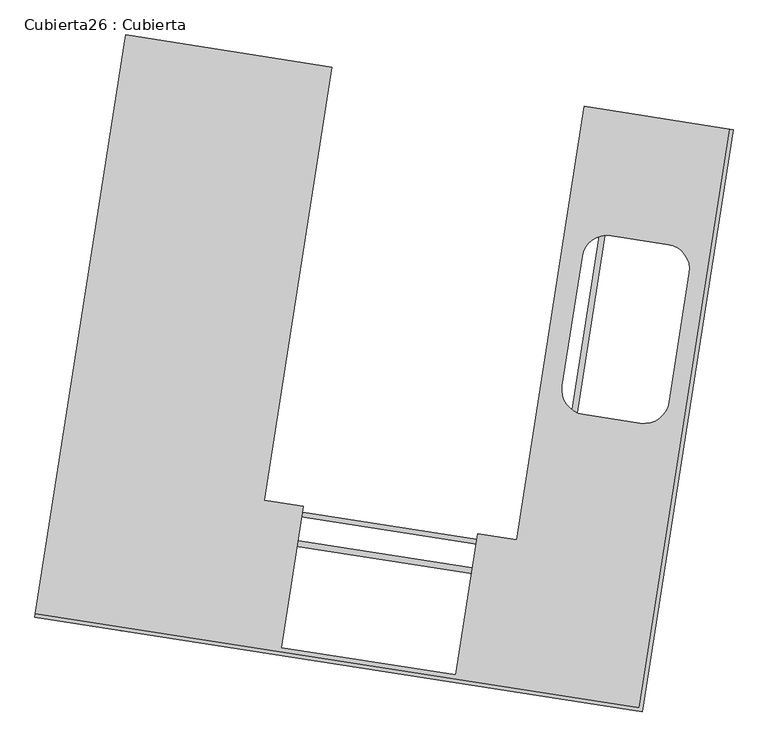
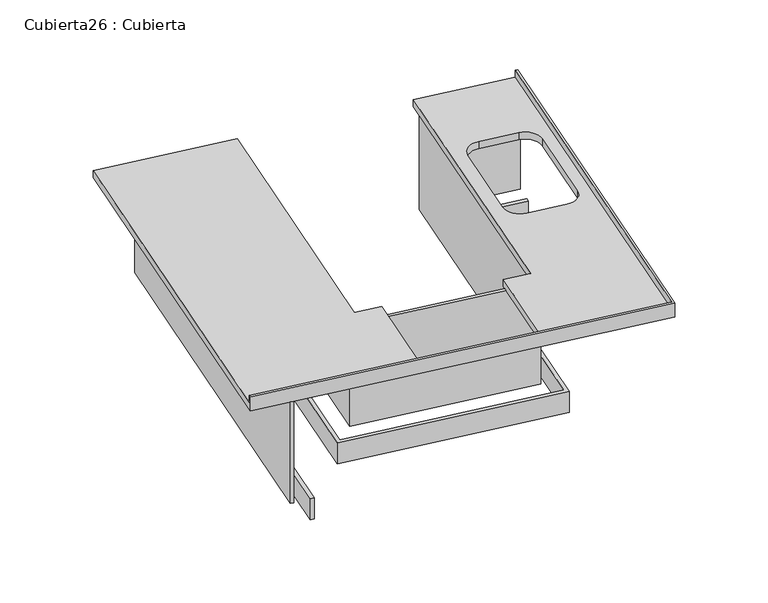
"""IFC4 building model written with IfcOpenShell, lengths in millimetres: furniture geometry, Cubierta26 : Cubierta."""

import ifcopenshell
import ifcopenshell.guid

model = None  # the IFC model being written
_history = None  # IfcOwnerHistory: only IFC2X3 demands one
_inside = {}  # id of a spatial element -> (the spatial element, [elements in it])
_under = {}  # id of a project, library or spatial element -> (it, [spatial elements below it])
_declared = {}  # id of a project -> (the project, [libraries it declares])
_typed = {}  # id of a type object -> (the type object, [elements of that type])
_made_of = {}  # id of a material, layer set ... -> (it, [elements and type objects made of it])


def new_model(schema):
    """Start an empty IFC model of exactly this schema.

    Asked for "IFC4X3", IfcOpenShell would pick the latest addendum, in which some entities
    have other attributes; the version numbers below select the first issue.
    IFC2X3 requires an IfcOwnerHistory on every rooted entity: one is made here for all.
    """
    global model, _history
    if schema == "IFC4X3":
        model = ifcopenshell.file(schema_version=(4, 3, 0, 0))
    else:
        model = ifcopenshell.file(schema=schema)
    _inside.clear()
    _under.clear()
    _declared.clear()
    _typed.clear()
    _made_of.clear()
    _history = None
    if model.schema == "IFC2X3":
        org = make("IfcOrganization", Name="unknown")
        user = make(
            "IfcPersonAndOrganization",
            ThePerson=make("IfcPerson", FamilyName="unknown"),
            TheOrganization=org,
        )
        app = make(
            "IfcApplication",
            ApplicationDeveloper=org,
            Version="unknown",
            ApplicationFullName="unknown",
            ApplicationIdentifier="unknown",
        )
        _history = make(
            "IfcOwnerHistory",
            OwningUser=user,
            OwningApplication=app,
            ChangeAction="ADDED",
            CreationDate=0,
        )
    return model


def make(cls, **values):
    """One entity of the class cls with the attributes given. An attribute that is None is left unset."""
    return model.create_entity(
        cls, **{name: value for name, value in values.items() if value is not None}
    )


def rooted(cls, **values):
    """An entity with a GlobalId (a new one), such as an element, a storey or a relation."""
    return make(cls, GlobalId=ifcopenshell.guid.new(), OwnerHistory=_history, **values)


def si_unit(unit_type, name, prefix=None):
    """IfcSIUnit, for example si_unit("LENGTHUNIT", "METRE", prefix="MILLI")."""
    return make("IfcSIUnit", UnitType=unit_type, Prefix=prefix, Name=name)


def assignment(units):
    """IfcUnitAssignment: the units of a project."""
    return None if units is None else make("IfcUnitAssignment", Units=units)


def point(xyz):
    """IfcCartesianPoint."""
    return None if xyz is None else make("IfcCartesianPoint", Coordinates=xyz)


def direction(xyz):
    """IfcDirection."""
    return None if xyz is None else make("IfcDirection", DirectionRatios=xyz)


def frame(location, z_axis=None, x_axis=None):
    """IfcAxis2Placement3D, a coordinate frame: its origin and axes. An axis left out is left unset."""
    return make(
        "IfcAxis2Placement3D",
        Location=point(location),
        Axis=direction(z_axis),
        RefDirection=direction(x_axis),
    )


def origin():
    """The frame at (0, 0, 0) with its axes left unset."""
    return frame((0.0, 0.0, 0.0))


def place(relative_to, where):
    """IfcLocalPlacement: puts the frame where relative to a parent placement (None: the world)."""
    return make(
        "IfcLocalPlacement", PlacementRelTo=relative_to, RelativePlacement=where
    )


def context(
    kind, dimensions, precision=None, world=None, true_north=None, identifier=None
):
    """IfcGeometricRepresentationContext, for example the 3D "Model" context."""
    return make(
        "IfcGeometricRepresentationContext",
        ContextIdentifier=identifier,
        ContextType=kind,
        CoordinateSpaceDimension=dimensions,
        Precision=precision,
        WorldCoordinateSystem=world,
        TrueNorth=true_north,
    )


def project(units=None, contexts=None):
    """IfcProject with its units and contexts."""
    return rooted(
        "IfcProject",
        Name="project",
        RepresentationContexts=contexts,
        UnitsInContext=assignment(units),
    )


def spatial(cls, under=None, at=None, **own):
    """A site, building, storey or space (cls), placed at a placement, below another one or the project."""
    s = rooted(cls, ObjectPlacement=at, **own)
    if under is not None:
        _under.setdefault(under.id(), (under, []))[1].append(s)
    return s


def polyline(points):
    """IfcPolyline through the points."""
    return make("IfcPolyline", Points=[point(p) for p in points])


def circle_curve(where, radius):
    """IfcCircle in the frame where."""
    return make("IfcCircle", Position=where, Radius=radius)


def outline(outer, holes=None, kind="AREA"):
    """IfcArbitraryClosedProfileDef: a profile drawn as a closed curve; with holes, ...WithVoids."""
    if holes is None:
        return make("IfcArbitraryClosedProfileDef", ProfileType=kind, OuterCurve=outer)
    return make(
        "IfcArbitraryProfileDefWithVoids",
        ProfileType=kind,
        OuterCurve=outer,
        InnerCurves=holes,
    )


def extrude(swept, where, along, depth):
    """IfcExtrudedAreaSolid: the profile swept, set in the frame where, extruded along a direction by depth."""
    return make(
        "IfcExtrudedAreaSolid",
        SweptArea=swept,
        Position=where,
        ExtrudedDirection=direction(along),
        Depth=depth,
    )


def shape(context_of_items, identifier, shape_type, items):
    """IfcShapeRepresentation: the items that make up one representation, for example the "Body"."""
    return make(
        "IfcShapeRepresentation",
        ContextOfItems=context_of_items,
        RepresentationIdentifier=identifier,
        RepresentationType=shape_type,
        Items=items,
    )


def source(mapping_origin, context_of_items, identifier, shape_type, items):
    """IfcRepresentationMap: a shape defined once, which mapped items show again and again."""
    return make(
        "IfcRepresentationMap",
        MappingOrigin=mapping_origin,
        MappedRepresentation=shape(context_of_items, identifier, shape_type, items),
    )


def transform(
    local_origin,
    x_axis=None,
    y_axis=None,
    z_axis=None,
    scale=None,
    scale2=None,
    scale3=None,
    uniform=True,
):
    """IfcCartesianTransformationOperator3D, or its non-uniform kind. x_axis, y_axis, z_axis: its Axis1, 2, 3."""
    if uniform:
        return make(
            "IfcCartesianTransformationOperator3D",
            Axis1=direction(x_axis),
            Axis2=direction(y_axis),
            LocalOrigin=point(local_origin),
            Scale=scale,
            Axis3=direction(z_axis),
        )
    return make(
        "IfcCartesianTransformationOperator3DnonUniform",
        Axis1=direction(x_axis),
        Axis2=direction(y_axis),
        LocalOrigin=point(local_origin),
        Scale=scale,
        Axis3=direction(z_axis),
        Scale2=scale2,
        Scale3=scale3,
    )


def mapped(mapping_source, mapping_target):
    """IfcMappedItem: shows the shape of a source again, moved by a transform."""
    return make(
        "IfcMappedItem", MappingSource=mapping_source, MappingTarget=mapping_target
    )


def made_of(thing, what):
    """Note that an element or type object is made of a material, layer set ...; save() writes the relation."""
    if what is not None:
        _made_of.setdefault(what.id(), (what, []))[1].append(thing)
    return thing


def element(
    cls,
    number,
    at=None,
    inside=None,
    cuts=None,
    type_object=None,
    material=None,
    context=None,
    identifier="Body",
    shape_type=None,
    held_by="IfcProductDefinitionShape",
    body=None,
    shapes=None,
    **own,
):
    """One element of the class cls, such as IfcWall. Its Tag is "e" and its number.

    at: its placement. inside: the storey or other place that contains it. cuts: it is an
    opening in that element (IfcRelVoidsElement). A single representation is given by context,
    identifier, shape_type and body (its items); several are given by shapes. held_by: the class
    of the entity that holds the representations. save() writes the other relations.
    """
    e = rooted(cls, Tag="e%d" % number, ObjectPlacement=at, **own)
    if body is not None:
        shapes = [shape(context, identifier, shape_type, body)]
    if shapes is not None:
        e.Representation = make(held_by, Representations=shapes)
    if inside is not None:
        _inside.setdefault(inside.id(), (inside, []))[1].append(e)
    if cuts is not None:
        rooted(
            "IfcRelVoidsElement", RelatingBuildingElement=cuts, RelatedOpeningElement=e
        )
    if type_object is not None:
        _typed.setdefault(type_object.id(), (type_object, []))[1].append(e)
    return made_of(e, material)


def aggregate(whole, parts):
    """IfcRelAggregates: a whole, such as a stair, and the parts it consists of."""
    return rooted("IfcRelAggregates", RelatingObject=whole, RelatedObjects=parts)


def save(model, path):
    """Write the relations noted so far, then the file.

    IfcRelAggregates (storeys below a building ...), IfcRelContainedInSpatialStructure (elements
    in a storey), IfcRelDefinesByType, IfcRelAssociatesMaterial and IfcRelDeclares: one each for
    every whole, place, type object, material and project.
    """
    for whole, parts in _under.values():
        aggregate(whole, parts)
    for where, things in _inside.values():
        rooted(
            "IfcRelContainedInSpatialStructure",
            RelatedElements=things,
            RelatingStructure=where,
        )
    for kind, things in _typed.values():
        rooted("IfcRelDefinesByType", RelatedObjects=things, RelatingType=kind)
    for what, things in _made_of.values():
        rooted("IfcRelAssociatesMaterial", RelatedObjects=things, RelatingMaterial=what)
    for by, libraries in _declared.values():
        rooted("IfcRelDeclares", RelatingContext=by, RelatedDefinitions=libraries)
    model.write(path)


def plane_surface(at):
    """IfcPlane: the flat surface through the origin of the frame at, square to its z axis."""
    return make("IfcPlane", Position=at)


def revolved_surface(curve, axis_point, axis_direction):
    """IfcSurfaceOfRevolution: the curve turned about the line through axis_point along axis_direction."""
    return make(
        "IfcSurfaceOfRevolution",
        SweptCurve=make("IfcArbitraryOpenProfileDef", ProfileType="CURVE", Curve=curve),
        AxisPosition=make("IfcAxis1Placement", Location=point(axis_point), Axis=direction(axis_direction)),
    )


def advanced_brep(points, edges, surfaces, faces):
    """IfcAdvancedBrep: a solid bounded by faces that lie on surfaces and meet in shared edges.

    An edge is (start, end): straight between two places in points (the first is 0);
    or (start, end, curve); or (start, end, curve, False) where it runs against its curve.
    A face is (place in surfaces, loops), or (place, loops, False) where it looks against
    its surface's normal. A loop lists edges by number (the first is 1), with a minus sign
    where the edge is run from its end to its start. The first loop is the outer one.
    """
    corners = [point(p) for p in points]
    vertices = [make("IfcVertexPoint", VertexGeometry=c) for c in corners]
    made = []
    for start, end, *more in edges:
        made.append(
            make(
                "IfcEdgeCurve",
                EdgeStart=vertices[start],
                EdgeEnd=vertices[end],
                EdgeGeometry=more[0] if more else make("IfcPolyline", Points=[corners[start], corners[end]]),
                SameSense=more[1] if len(more) > 1 else True,
            )
        )
    hull = []
    for where, loops, *sense in faces:
        bounds = []
        for j, loop in enumerate(loops):
            ring = [make("IfcOrientedEdge", EdgeElement=made[abs(k) - 1], Orientation=k > 0) for k in loop]
            bounds.append(
                make(
                    "IfcFaceOuterBound" if j == 0 else "IfcFaceBound",
                    Bound=make("IfcEdgeLoop", EdgeList=ring),
                    Orientation=True,
                )
            )
        hull.append(make("IfcAdvancedFace", Bounds=bounds, FaceSurface=surfaces[where], SameSense=sense[0] if sense else True))
    return make("IfcAdvancedBrep", Outer=make("IfcClosedShell", CfsFaces=hull))


def cubierta26_cubierta_3ae4725f(model_context):
    return source(origin(), model_context, "Body", "SolidModel", [
        extrude(outline(polyline([(-29856.6011541, -60022.0322017), (-29362.5665007, -60099.0371413), (-29366.4167477, -60123.738874), (-29835.7496684, -60050.5841814), (-30126.8283359, -61918.035146), (-31559.5288325, -61694.7208211), (-31268.4501647, -59827.2698564), (-31589.5726859, -59777.2166462), (-31953.806046, -62114.0005321), (-31978.5077787, -62110.1502852), (-31610.4241716, -59748.6646665), (-31239.898185, -59806.4183706), (-31530.9768528, -61673.8693353), (-30147.6798216, -61889.4831664), (-29856.6011541, -60022.0322017)])), frame((0.0, 0.0, 12800.0), z_axis=(0.0, 0.0, 1.0), x_axis=(1.0, 0.0, 0.0)), (0.0, 0.0, 1.0), 150.0),
        extrude(outline(polyline([(-31097.1382866, -59702.160942), (-31388.2169544, -61569.6119068), (-30251.9372502, -61746.723268), (-29960.8585827, -59879.2723032), (-29343.3152657, -59975.5284777), (-29346.3954633, -59995.2898639), (-29944.1773941, -59902.113887), (-30235.2560616, -61769.5648517), (-31411.0585381, -61586.2930953), (-31119.9798704, -59718.8421306), (-31698.0004116, -59628.7463518), (-32082.255056, -62093.9792478), (-32102.0164422, -62090.8990502), (-31714.6816001, -59605.9047681), (-31097.1382866, -59702.160942)])), frame((0.0, 0.0, 12950.0), z_axis=(0.0, 0.0, 1.0), x_axis=(1.0, 0.0, 0.0)), (0.0, 0.0, 1.0), 720.0),
        advanced_brep(
        [(-29981.7100684, -59850.7203237, 13720.0), (-30272.7887361, -61718.1712883, 13720.0), (-30440.7605183, -61691.9896088, 13720.0), (-30535.7437932, -62301.3664816, 13720.0), (-31286.6764672, -62184.3189733, 13720.0), (-31191.6931923, -61574.9421005, 13720.0), (-31359.6649747, -61548.7604211, 13720.0), (-31068.586307, -59681.3094564, 13720.0), (-31957.84868, -59542.7005656, 13720.0), (-32346.723621, -62037.5755408, 13720.0), (-29743.1609993, -62443.391572, 13720.0), (-29354.2860584, -59948.516597, 13720.0), (-29988.3859433, -60497.4075856, 13720.0), (-29866.1834703, -60408.1632267, 13720.0), (-29619.1661434, -60446.6656966, 13720.0), (-29529.9217845, -60568.8681696, 13720.0), (-29616.9373663, -61127.1273285, 13720.0), (-29739.1398394, -61216.3716874, 13720.0), (-29986.1571663, -61177.8692175, 13720.0), (-30075.4015252, -61055.6667445, 13720.0), (-32349.0337692, -62052.3965805, 13670.0), (-31957.84868, -59542.7005656, 13670.0), (-31068.586307, -59681.3094564, 13670.0), (-31359.6649747, -61548.7604211, 13670.0), (-31191.6931923, -61574.9421005, 13670.0), (-31286.6764672, -62184.3189733, 13670.0), (-30535.7437932, -62301.3664816, 13670.0), (-30440.7605183, -61691.9896088, 13670.0), (-30272.7887361, -61718.1712883, 13670.0), (-29981.7100684, -59850.7203237, 13670.0), (-29339.4650188, -59950.8267451, 13670.0), (-29730.6501079, -62460.5227599, 13670.0), (-29988.3859433, -60497.4075856, 13670.0), (-30075.4015252, -61055.6667445, 13670.0), (-29986.1571663, -61177.8692175, 13670.0), (-29739.1398394, -61216.3716874, 13670.0), (-29616.9373663, -61127.1273285, 13670.0), (-29529.9217845, -60568.8681696, 13670.0), (-29619.1661434, -60446.6656966, 13670.0), (-29866.1834703, -60408.1632267, 13670.0), (-32349.0337692, -62052.3965804, 13770.0), (-32346.723621, -62037.5755408, 13770.0), (-29730.6501079, -62460.5227598, 13770.0), (-29339.4650188, -59950.8267451, 13770.0), (-29354.2860584, -59948.516597, 13770.0), (-29743.1609993, -62443.391572, 13770.0)],
        [
            (0, 1),
            (1, 2),
            (2, 3),
            (3, 4),
            (4, 5),
            (5, 6),
            (6, 7),
            (7, 8),
            (8, 9),
            (9, 10),
            (10, 11),
            (11, 0),
            (12, 13, circle_curve(frame((-29882.6625274, -60513.8866427, 13720.0), z_axis=(0.0, 0.0, -1.0), x_axis=(0.15400987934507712, 0.9880693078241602, 0.0)), 107.0)),
            (13, 14),
            (14, 15, circle_curve(frame((-29635.6452005, -60552.3891125, 13720.0), z_axis=(0.0, 0.0, -1.0), x_axis=(0.15400987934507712, 0.9880693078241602, 0.0)), 107.0)),
            (15, 16),
            (16, 17, circle_curve(frame((-29722.6607823, -61110.6482714, 13720.0), z_axis=(0.0, 0.0, -1.0), x_axis=(0.15400987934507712, 0.9880693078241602, 0.0)), 107.0)),
            (17, 18),
            (18, 19, circle_curve(frame((-29969.6781092, -61072.1458016, 13720.0), z_axis=(0.0, 0.0, -1.0), x_axis=(0.15400987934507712, 0.9880693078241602, 0.0)), 107.0)),
            (19, 12),
            (20, 21),
            (21, 22),
            (22, 23),
            (23, 24),
            (24, 25),
            (25, 26),
            (26, 27),
            (27, 28),
            (28, 29),
            (29, 30),
            (30, 31),
            (31, 20),
            (32, 33),
            (33, 34, circle_curve(frame((-29969.6781092, -61072.1458016, 13670.0), z_axis=(0.0, 0.0, 1.0), x_axis=(0.15400987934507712, 0.9880693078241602, 0.0)), 107.0)),
            (34, 35),
            (35, 36, circle_curve(frame((-29722.6607823, -61110.6482714, 13670.0), z_axis=(0.0, 0.0, 1.0), x_axis=(0.15400987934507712, 0.9880693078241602, 0.0)), 107.0)),
            (36, 37),
            (37, 38, circle_curve(frame((-29635.6452005, -60552.3891125, 13670.0), z_axis=(0.0, 0.0, 1.0), x_axis=(0.15400987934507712, 0.9880693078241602, 0.0)), 107.0)),
            (38, 39),
            (39, 32, circle_curve(frame((-29882.6625274, -60513.8866427, 13670.0), z_axis=(0.0, 0.0, 1.0), x_axis=(0.15400987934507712, 0.9880693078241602, 0.0)), 107.0)),
            (40, 41),
            (41, 9),
            (8, 21),
            (20, 40),
            (40, 42),
            (42, 43),
            (43, 44),
            (44, 45),
            (45, 41),
            (45, 10),
            (31, 42),
            (43, 30),
            (29, 0),
            (11, 44),
            (5, 24),
            (23, 6),
            (22, 7),
            (1, 28),
            (27, 2),
            (26, 3),
            (25, 4),
            (12, 32),
            (39, 13),
            (38, 14),
            (37, 15),
            (36, 16),
            (35, 17),
            (34, 18),
            (33, 19),
        ],
        [
            plane_surface(frame((-30091.1403123, -62404.3333282, 13720.0), z_axis=(0.0, 0.0, 1.0000000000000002), x_axis=(0.9880693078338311, -0.15400987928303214, 0.0))),
            plane_surface(frame((-30091.1403123, -62404.3333282, 13670.0), z_axis=(0.0, 0.0, -1.0000000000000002), x_axis=(-0.9880693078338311, 0.15400987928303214, 0.0))),
            plane_surface(frame((-32349.0337692, -62052.3965804, 12820.0), z_axis=(-0.9880693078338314, 0.15400987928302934, 0.0), x_axis=(0.0, 0.0, 1.0))),
            plane_surface(frame((-32349.0337692, -62052.3965804, 13770.0), z_axis=(0.0, 0.0, 1.0), x_axis=(0.9880693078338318, -0.15400987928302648, 0.0))),
            plane_surface(frame((-32346.723621, -62037.5755408, 13770.0), z_axis=(0.1540098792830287, 0.9880693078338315, 0.0), x_axis=(0.9880693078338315, -0.1540098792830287, 0.0))),
            plane_surface(frame((-32349.0337692, -62052.3965804, 13720.0), z_axis=(-0.15400987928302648, -0.9880693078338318, 0.0), x_axis=(0.9880693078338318, -0.15400987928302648, 0.0))),
            plane_surface(frame((-29339.4650188, -59950.8267451, 12820.0), z_axis=(0.15400987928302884, 0.9880693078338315, 0.0), x_axis=(0.0, 0.0, 1.0))),
            plane_surface(frame((-31191.6931923, -61574.9421005, 13720.0), z_axis=(0.1540098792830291, 0.9880693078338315, 0.0), x_axis=(0.0, 0.0, -1.0))),
            plane_surface(frame((-31359.6649747, -61548.7604211, 13720.0), z_axis=(0.9880693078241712, -0.15400987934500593, 0.0), x_axis=(0.0, 0.0, -1.0))),
            plane_surface(frame((-31068.586307, -59681.3094564, 13720.0), z_axis=(0.15400987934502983, 0.9880693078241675, 0.0), x_axis=(0.0, 0.0, -1.0))),
            plane_surface(frame((-30272.7887361, -61718.1712883, 13720.0), z_axis=(0.15400987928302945, 0.9880693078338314, 0.0), x_axis=(0.0, 0.0, -1.0))),
            plane_surface(frame((-30440.7605183, -61691.9896088, 13720.0), z_axis=(-0.9880693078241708, 0.1540098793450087, 0.0), x_axis=(0.0, 0.0, -1.0))),
            plane_surface(frame((-30535.7437932, -62301.3664816, 13720.0), z_axis=(0.1540098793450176, 0.9880693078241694, 0.0), x_axis=(0.0, 0.0, -1.0))),
            plane_surface(frame((-31286.6764672, -62184.3189733, 13720.0), z_axis=(0.9880693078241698, -0.15400987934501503, 0.0), x_axis=(0.0, 0.0, -1.0))),
            plane_surface(frame((-29981.7100684, -59850.7203237, 13720.0), z_axis=(-0.9880693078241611, 0.1540098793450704, 0.0), x_axis=(0.0, 0.0, -1.0))),
            revolved_surface(polyline([(-29866.183470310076, -60408.163226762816, 13670.0), (-29866.183470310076, -60408.163226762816, 13720.0)]), (-29882.6625274, -60513.8866427, 12820.0), (0.0, 0.0, -1.0000000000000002)),
            plane_surface(frame((-29866.1834703, -60408.1632267, 13720.0), z_axis=(-0.15400987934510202, -0.9880693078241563, 0.0), x_axis=(0.0, 0.0, -1.0))),
            revolved_surface(polyline([(-29619.166143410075, -60446.66569656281, 13670.0), (-29619.166143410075, -60446.66569656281, 13720.0)]), (-29635.6452005, -60552.3891125, 12820.0), (0.0, 0.0, -1.0000000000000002)),
            plane_surface(frame((-29529.9217845, -60568.8681696, 13720.0), z_axis=(-0.9880693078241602, 0.15400987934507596, 0.0), x_axis=(0.0, 0.0, -1.0))),
            revolved_surface(polyline([(-29706.181725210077, -61004.924855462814, 13670.0), (-29706.181725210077, -61004.924855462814, 13720.0)]), (-29722.6607823, -61110.6482714, 12820.0), (0.0, 0.0, -1.0000000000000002)),
            plane_surface(frame((-29739.1398394, -61216.3716874, 13720.0), z_axis=(0.15400987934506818, 0.9880693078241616, 0.0), x_axis=(0.0, 0.0, -1.0))),
            revolved_surface(polyline([(-29953.199052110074, -60966.422385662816, 13670.0), (-29953.199052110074, -60966.422385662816, 13720.0)]), (-29969.6781092, -61072.1458016, 12820.0), (0.0, 0.0, -1.0000000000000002)),
            plane_surface(frame((-30075.4015252, -61055.6667445, 13720.0), z_axis=(0.9880693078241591, -0.15400987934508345, 0.0), x_axis=(0.0, 0.0, -1.0))),
            plane_surface(frame((-29743.1609993, -62443.391572, 13770.0), z_axis=(-0.9880693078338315, 0.15400987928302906, 0.0), x_axis=(0.15400987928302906, 0.9880693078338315, 0.0))),
            plane_surface(frame((-29730.6501079, -62460.5227598, 13720.0), z_axis=(0.9880693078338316, -0.1540098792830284, 0.0), x_axis=(0.1540098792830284, 0.9880693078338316, 0.0))),
        ],
        [
            (0, [[1, 2, 3, 4, 5, 6, 7, 8, 9, 10, 11, 12], [13, 14, 15, 16, 17, 18, 19, 20]]),
            (1, [[21, 22, 23, 24, 25, 26, 27, 28, 29, 30, 31, 32], [33, 34, 35, 36, 37, 38, 39, 40]]),
            (2, [[41, 42, -9, 43, -21, 44]]),
            (3, [[-41, 45, 46, 47, 48, 49]]),
            (4, [[-42, -49, 50, -10]]),
            (5, [[-44, -32, 51, -45]]),
            (6, [[-47, 52, -30, 53, -12, 54]]),
            (7, [[-6, 55, -24, 56]]),
            (8, [[-7, -56, -23, 57]]),
            (9, [[-8, -57, -22, -43]]),
            (10, [[-2, 58, -28, 59]]),
            (11, [[-3, -59, -27, 60]]),
            (12, [[-4, -60, -26, 61]]),
            (13, [[-5, -61, -25, -55]]),
            (14, [[-1, -53, -29, -58]]),
            (15, [[-13, 62, -40, 63]]),
            (16, [[-14, -63, -39, 64]]),
            (17, [[-15, -64, -38, 65]]),
            (18, [[-16, -65, -37, 66]]),
            (19, [[-17, -66, -36, 67]]),
            (20, [[-18, -67, -35, 68]]),
            (21, [[-19, -68, -34, 69]]),
            (22, [[-20, -69, -33, -62]]),
            (23, [[-48, -54, -11, -50]]),
            (24, [[-52, -46, -51, -31]]),
        ],
    ),
    ])


if __name__ == "__main__":
    model = new_model("IFC4")
    model_context = context("Model", 3, world=origin())
    ifc_project = project(units=[si_unit("LENGTHUNIT", "METRE", prefix="MILLI")], contexts=[model_context])
    site = spatial("IfcSite", under=ifc_project)
    building = spatial("IfcBuilding", under=site)
    placement = place(None, origin())
    cubierta26_cubierta_shape = cubierta26_cubierta_3ae4725f(model_context)
    element("IfcFurniture", 1, ObjectType="Cubierta26 : Cubierta", at=placement, inside=building, context=model_context, shape_type="MappedRepresentation", body=[
        mapped(cubierta26_cubierta_shape, transform((0.0, 0.0, 0.0), x_axis=(1.0, 0.0, 0.0), y_axis=(0.0, 1.0, 0.0), z_axis=(0.0, 0.0, 1.0))),
    ])
    save(model, "model.ifc")
